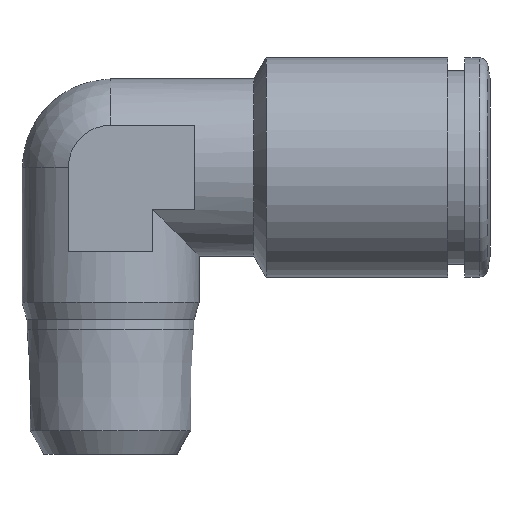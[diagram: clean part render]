
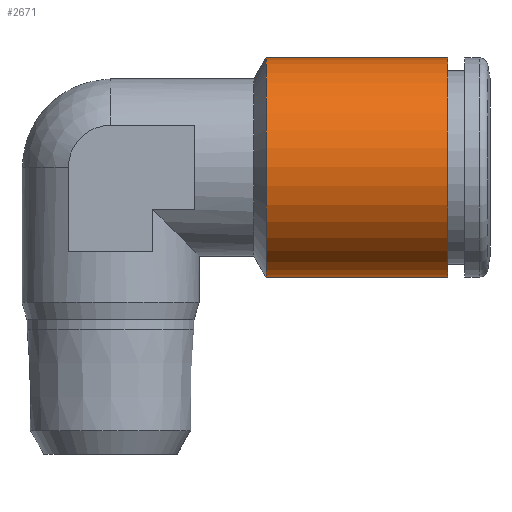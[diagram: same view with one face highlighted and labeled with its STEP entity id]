
A CAD part, front view. The second image highlights one B-rep face of the part: STEP entity #2671.
In plain terms, the highlighted cylindrical face has radius 6.5 mm (diameter 13 mm), a full revolution.
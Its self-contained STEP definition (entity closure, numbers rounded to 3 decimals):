
#1038=ORIENTED_EDGE('',*,*,#1297,.T.);
#1039=ORIENTED_EDGE('',*,*,#1298,.F.);
#1188=CIRCLE('',#2566,6.5);
#1189=CIRCLE('',#2568,6.5);
#1233=VERTEX_POINT('',#2320);
#1234=VERTEX_POINT('',#2323);
#1297=EDGE_CURVE('',#1233,#1233,#1188,.T.);
#1298=EDGE_CURVE('',#1234,#1234,#1189,.T.);
#1386=EDGE_LOOP('',(#1038));
#1387=EDGE_LOOP('',(#1039));
#1472=FACE_BOUND('',#1386,.T.);
#1473=FACE_BOUND('',#1387,.T.);
#1579=DIRECTION('',(-1.,0.,0.));
#1580=DIRECTION('',(0.,6.5,0.));
#1581=DIRECTION('',(-1.,0.,0.));
#1582=DIRECTION('',(0.,1.,0.));
#1583=DIRECTION('',(-1.,0.,0.));
#1584=DIRECTION('',(0.,6.5,0.));
#2320=CARTESIAN_POINT('',(20.,23.5,0.));
#2321=CARTESIAN_POINT('',(20.,17.,0.));
#2322=CARTESIAN_POINT('',(20.,17.,0.));
#2323=CARTESIAN_POINT('',(9.222,23.5,0.));
#2324=CARTESIAN_POINT('',(9.222,17.,0.));
#2566=AXIS2_PLACEMENT_3D('',#2321,#1579,#1580);
#2567=AXIS2_PLACEMENT_3D('',#2322,#1581,#1582);
#2568=AXIS2_PLACEMENT_3D('',#2324,#1583,#1584);
#2650=CYLINDRICAL_SURFACE('',#2567,6.5);
#2671=ADVANCED_FACE('',(#1472,#1473),#2650,.T.);
